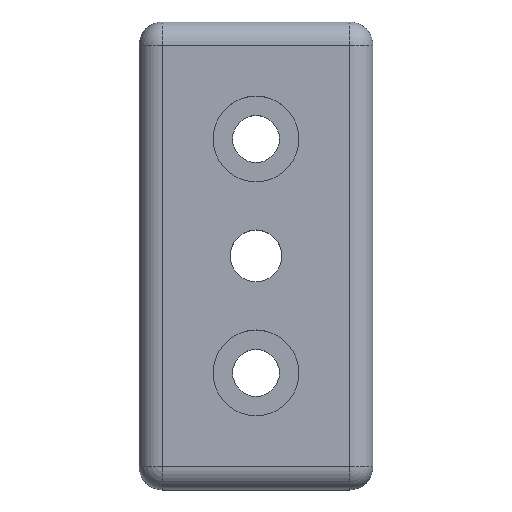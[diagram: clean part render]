
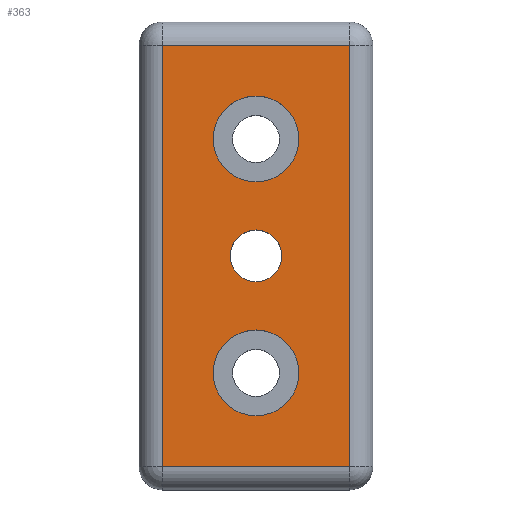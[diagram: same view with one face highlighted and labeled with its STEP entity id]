
A CAD part, top view. The second image highlights one B-rep face of the part: STEP entity #363.
In plain terms, the highlighted planar face has unit normal (0, 0, 1).
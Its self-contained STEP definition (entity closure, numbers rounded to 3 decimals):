
#32=CIRCLE('',#410,3.324);
#33=CIRCLE('',#411,5.5);
#34=CIRCLE('',#412,5.5);
#95=ORIENTED_EDGE('',*,*,#179,.T.);
#96=ORIENTED_EDGE('',*,*,#180,.T.);
#97=ORIENTED_EDGE('',*,*,#181,.T.);
#98=ORIENTED_EDGE('',*,*,#182,.T.);
#99=ORIENTED_EDGE('',*,*,#183,.T.);
#100=ORIENTED_EDGE('',*,*,#184,.T.);
#101=ORIENTED_EDGE('',*,*,#185,.T.);
#179=EDGE_CURVE('',#217,#217,#32,.T.);
#180=EDGE_CURVE('',#218,#218,#33,.T.);
#181=EDGE_CURVE('',#219,#219,#34,.T.);
#182=EDGE_CURVE('',#220,#221,#247,.T.);
#183=EDGE_CURVE('',#221,#222,#248,.T.);
#184=EDGE_CURVE('',#222,#223,#249,.T.);
#185=EDGE_CURVE('',#223,#220,#250,.T.);
#217=VERTEX_POINT('',#619);
#218=VERTEX_POINT('',#621);
#219=VERTEX_POINT('',#623);
#220=VERTEX_POINT('',#625);
#221=VERTEX_POINT('',#626);
#222=VERTEX_POINT('',#628);
#223=VERTEX_POINT('',#630);
#247=LINE('',#624,#267);
#248=LINE('',#627,#268);
#249=LINE('',#629,#269);
#250=LINE('',#631,#270);
#267=VECTOR('',#502,1000.);
#268=VECTOR('',#503,1000.);
#269=VECTOR('',#504,1000.);
#270=VECTOR('',#505,1000.);
#279=EDGE_LOOP('',(#95));
#280=EDGE_LOOP('',(#96));
#281=EDGE_LOOP('',(#97));
#282=EDGE_LOOP('',(#98,#99,#100,#101));
#317=FACE_BOUND('',#279,.T.);
#318=FACE_BOUND('',#280,.T.);
#319=FACE_BOUND('',#281,.T.);
#320=FACE_BOUND('',#282,.T.);
#351=PLANE('',#409);
#363=ADVANCED_FACE('',(#317,#318,#319,#320),#351,.T.);
#409=AXIS2_PLACEMENT_3D('',#617,#494,#495);
#410=AXIS2_PLACEMENT_3D('',#618,#496,#497);
#411=AXIS2_PLACEMENT_3D('',#620,#498,#499);
#412=AXIS2_PLACEMENT_3D('',#622,#500,#501);
#494=DIRECTION('',(0.,0.,1.));
#495=DIRECTION('',(1.,0.,0.));
#496=DIRECTION('',(0.,0.,-1.));
#497=DIRECTION('',(-1.,0.,0.));
#498=DIRECTION('',(0.,0.,-1.));
#499=DIRECTION('',(-1.,0.,0.));
#500=DIRECTION('',(0.,0.,-1.));
#501=DIRECTION('',(-1.,0.,0.));
#502=DIRECTION('',(0.,1.,0.));
#503=DIRECTION('',(-1.,0.,0.));
#504=DIRECTION('',(0.,-1.,0.));
#505=DIRECTION('',(1.,0.,0.));
#617=CARTESIAN_POINT('',(-12.,-27.,12.));
#618=CARTESIAN_POINT('',(0.,0.,12.));
#619=CARTESIAN_POINT('',(-3.324,0.,12.));
#620=CARTESIAN_POINT('',(0.,-15.,12.));
#621=CARTESIAN_POINT('',(-5.5,-15.,12.));
#622=CARTESIAN_POINT('',(0.,15.,12.));
#623=CARTESIAN_POINT('',(-5.5,15.,12.));
#624=CARTESIAN_POINT('',(12.,27.,12.));
#625=CARTESIAN_POINT('',(12.,-27.,12.));
#626=CARTESIAN_POINT('',(12.,27.,12.));
#627=CARTESIAN_POINT('',(-12.,27.,12.));
#628=CARTESIAN_POINT('',(-12.,27.,12.));
#629=CARTESIAN_POINT('',(-12.,-27.,12.));
#630=CARTESIAN_POINT('',(-12.,-27.,12.));
#631=CARTESIAN_POINT('',(12.,-27.,12.));
